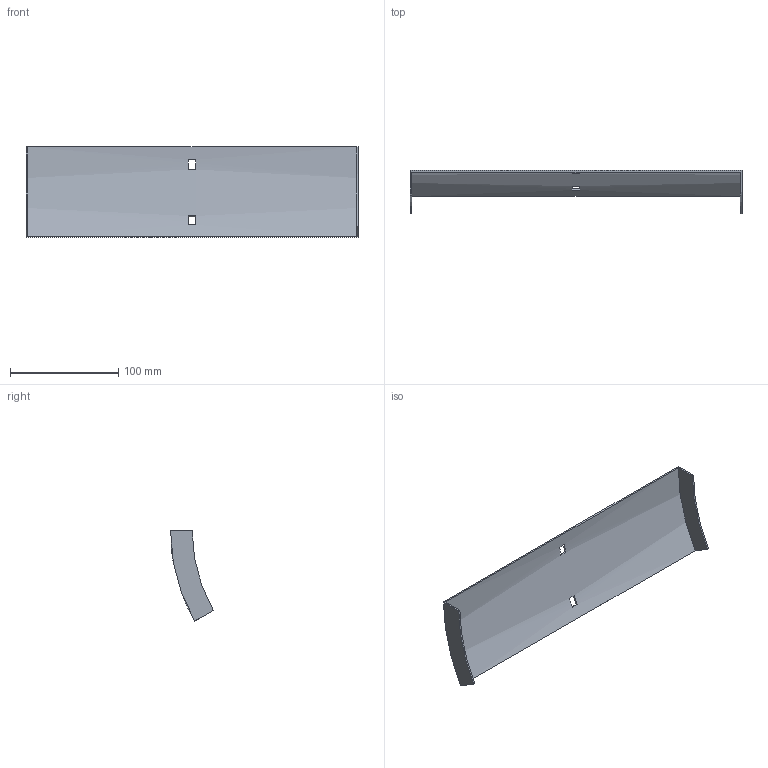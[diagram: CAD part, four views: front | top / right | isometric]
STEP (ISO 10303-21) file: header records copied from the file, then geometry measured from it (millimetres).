
FILE_DESCRIPTION (( 'STEP AP214' ), '1' );
FILE_NAME ('35N1H300.step', '2025-02-21T09:12:35', ( '' ), ( '' ), 'SwSTEP 2.0', 'SolidWorks 2023', '' );
FILE_SCHEMA (( 'AUTOMOTIVE_DESIGN' ));
Length unit declared in the file: millimetre
Products named in the file (1): 35N1H300
Bounding box: 307 x 39.69 x 83.5 mm (x, y, z)
Volume: 44449.9 mm3; surface area: 60624.1 mm2
Topology: 1 solids, 1 shells, 18 faces, 48 edges, 32 vertices
Faces by surface type: plane 14, cylinder 4
Entity records: 599 total; most frequent: DIRECTION 102, CARTESIAN_POINT 99, ORIENTED_EDGE 96, EDGE_CURVE 48, AXIS2_PLACEMENT_3D 35, VECTOR 32, LINE 32, VERTEX_POINT 32
